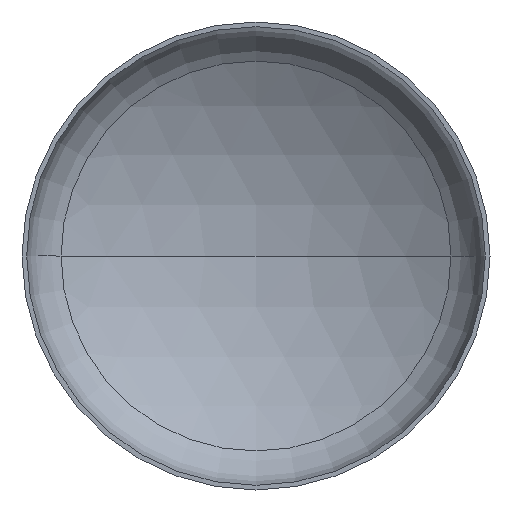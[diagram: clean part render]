
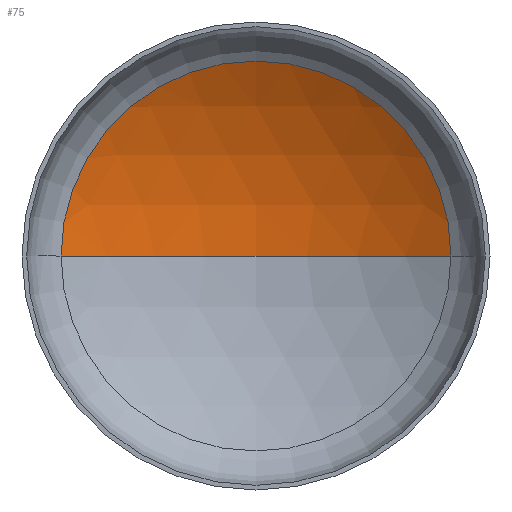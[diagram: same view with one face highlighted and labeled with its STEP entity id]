
A CAD part, front view. The second image highlights one B-rep face of the part: STEP entity #75.
In plain terms, the highlighted spherical face has radius 1280 mm.
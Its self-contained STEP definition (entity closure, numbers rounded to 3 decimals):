
#1 = CARTESIAN_POINT ( 'NONE',  ( 0., -828.575, 0. ) ) ;
#10 = CARTESIAN_POINT ( 'NONE',  ( 0., -828.575, 0. ) ) ;
#15 = EDGE_LOOP ( 'NONE', ( #164, #124, #162 ) ) ;
#16 = DIRECTION ( 'NONE',  ( 0., 0., 1. ) ) ;
#49 = AXIS2_PLACEMENT_3D ( 'NONE', #10, #16, #374 ) ;
#52 = AXIS2_PLACEMENT_3D ( 'NONE', #1, #157, #212 ) ;
#62 = AXIS2_PLACEMENT_3D ( 'NONE', #191, #192, #400 ) ;
#75 = ADVANCED_FACE ( 'NONE', ( #153 ), #278, .F. ) ;
#78 = VERTEX_POINT ( 'NONE', #245 ) ;
#91 = AXIS2_PLACEMENT_3D ( 'NONE', #279, #240, #239 ) ;
#94 = CIRCLE ( 'NONE', #62, 666.589 ) ;
#99 = VERTEX_POINT ( 'NONE', #230 ) ;
#124 = ORIENTED_EDGE ( 'NONE', *, *, #138, .T. ) ;
#136 = EDGE_CURVE ( 'NONE', #225, #78, #94, .T. ) ;
#138 = EDGE_CURVE ( 'NONE', #99, #225, #373, .T. ) ;
#141 = EDGE_CURVE ( 'NONE', #99, #78, #315, .T. ) ;
#153 = FACE_OUTER_BOUND ( 'NONE', #15, .T. ) ;
#157 = DIRECTION ( 'NONE',  ( 0., 0., -1. ) ) ;
#162 = ORIENTED_EDGE ( 'NONE', *, *, #136, .T. ) ;
#164 = ORIENTED_EDGE ( 'NONE', *, *, #141, .F. ) ;
#191 = CARTESIAN_POINT ( 'NONE',  ( 0., 264.155, 0. ) ) ;
#192 = DIRECTION ( 'NONE',  ( 0., -1., 0. ) ) ;
#212 = DIRECTION ( 'NONE',  ( -1., 0., 0. ) ) ;
#225 = VERTEX_POINT ( 'NONE', #260 ) ;
#230 = CARTESIAN_POINT ( 'NONE',  ( 0., 451.425, 0. ) ) ;
#239 = DIRECTION ( 'NONE',  ( -1., 0., 0. ) ) ;
#240 = DIRECTION ( 'NONE',  ( 0., 0., -1. ) ) ;
#245 = CARTESIAN_POINT ( 'NONE',  ( -666.589, 264.155, 0. ) ) ;
#260 = CARTESIAN_POINT ( 'NONE',  ( 666.589, 264.155, 0. ) ) ;
#278 = SPHERICAL_SURFACE ( 'NONE', #91, 1280. ) ;
#279 = CARTESIAN_POINT ( 'NONE',  ( 0., -828.575, 0. ) ) ;
#315 = CIRCLE ( 'NONE', #49, 1280. ) ;
#373 = CIRCLE ( 'NONE', #52, 1280. ) ;
#374 = DIRECTION ( 'NONE',  ( 1., 0., 0. ) ) ;
#400 = DIRECTION ( 'NONE',  ( 1., 0., 0. ) ) ;
